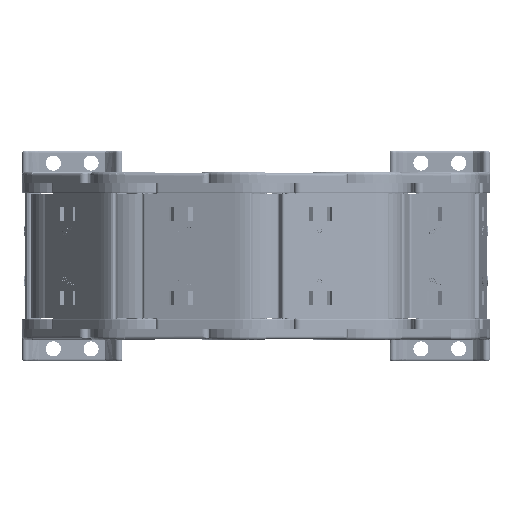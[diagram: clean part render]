
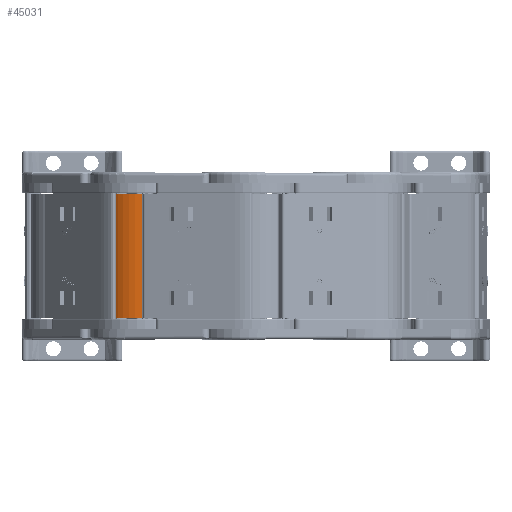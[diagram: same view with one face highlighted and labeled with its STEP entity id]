
A CAD part, left-side view. The second image highlights one B-rep face of the part: STEP entity #45031.
In plain terms, the highlighted cylindrical face has radius 17.3 mm (diameter 34.6 mm), a partial arc.
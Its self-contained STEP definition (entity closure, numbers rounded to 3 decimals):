
#402 = VERTEX_POINT ( 'NONE', #19706 ) ;
#2570 = LINE ( 'NONE', #35979, #11596 ) ;
#3151 = ORIENTED_EDGE ( 'NONE', *, *, #21539, .T. ) ;
#3620 = CARTESIAN_POINT ( 'NONE',  ( 17.932, 16.314, -9.05 ) ) ;
#4383 = CARTESIAN_POINT ( 'NONE',  ( 17.932, 16.314, 40.05 ) ) ;
#4713 = DIRECTION ( 'NONE',  ( 0., 0., 1. ) ) ;
#5720 = LINE ( 'NONE', #23727, #25011 ) ;
#7340 = DIRECTION ( 'NONE',  ( 0., 0., -1. ) ) ;
#7507 = EDGE_CURVE ( 'NONE', #402, #20861, #39482, .T. ) ;
#8185 = EDGE_CURVE ( 'NONE', #44739, #48853, #16657, .T. ) ;
#11596 = VECTOR ( 'NONE', #13007, 1000. ) ;
#13007 = DIRECTION ( 'NONE',  ( 0., 0., -1. ) ) ;
#13889 = CARTESIAN_POINT ( 'NONE',  ( 23.607, -0.029, -9.05 ) ) ;
#15930 = ORIENTED_EDGE ( 'NONE', *, *, #8185, .T. ) ;
#16657 = CIRCLE ( 'NONE', #41094, 17.3 ) ;
#17765 = DIRECTION ( 'NONE',  ( 1., 0., 0. ) ) ;
#18769 = CARTESIAN_POINT ( 'NONE',  ( 23.607, -0.029, 40.05 ) ) ;
#19706 = CARTESIAN_POINT ( 'NONE',  ( 32.559, 14.775, -9.05 ) ) ;
#20861 = VERTEX_POINT ( 'NONE', #3620 ) ;
#21101 = CYLINDRICAL_SURFACE ( 'NONE', #35834, 17.3 ) ;
#21539 = EDGE_CURVE ( 'NONE', #48853, #402, #2570, .T. ) ;
#22271 = FACE_OUTER_BOUND ( 'NONE', #25141, .T. ) ;
#22626 = DIRECTION ( 'NONE',  ( -1., 0., 0. ) ) ;
#22662 = CARTESIAN_POINT ( 'NONE',  ( 23.607, -0.029, 28.5 ) ) ;
#23657 = ORIENTED_EDGE ( 'NONE', *, *, #32177, .T. ) ;
#23727 = CARTESIAN_POINT ( 'NONE',  ( 17.932, 16.314, 28.5 ) ) ;
#25011 = VECTOR ( 'NONE', #4713, 1000. ) ;
#25141 = EDGE_LOOP ( 'NONE', ( #23657, #15930, #3151, #40885 ) ) ;
#26658 = CARTESIAN_POINT ( 'NONE',  ( 32.559, 14.775, 40.05 ) ) ;
#32177 = EDGE_CURVE ( 'NONE', #20861, #44739, #5720, .T. ) ;
#32651 = AXIS2_PLACEMENT_3D ( 'NONE', #13889, #40714, #17765 ) ;
#34218 = DIRECTION ( 'NONE',  ( -1., 0., 0. ) ) ;
#35834 = AXIS2_PLACEMENT_3D ( 'NONE', #22662, #7340, #34218 ) ;
#35979 = CARTESIAN_POINT ( 'NONE',  ( 32.559, 14.775, 28.5 ) ) ;
#39482 = CIRCLE ( 'NONE', #32651, 17.3 ) ;
#40714 = DIRECTION ( 'NONE',  ( 0., 0., 1. ) ) ;
#40885 = ORIENTED_EDGE ( 'NONE', *, *, #7507, .T. ) ;
#41094 = AXIS2_PLACEMENT_3D ( 'NONE', #18769, #45557, #22626 ) ;
#44739 = VERTEX_POINT ( 'NONE', #4383 ) ;
#45031 = ADVANCED_FACE ( 'NONE', ( #22271 ), #21101, .T. ) ;
#45557 = DIRECTION ( 'NONE',  ( 0., 0., -1. ) ) ;
#48853 = VERTEX_POINT ( 'NONE', #26658 ) ;
